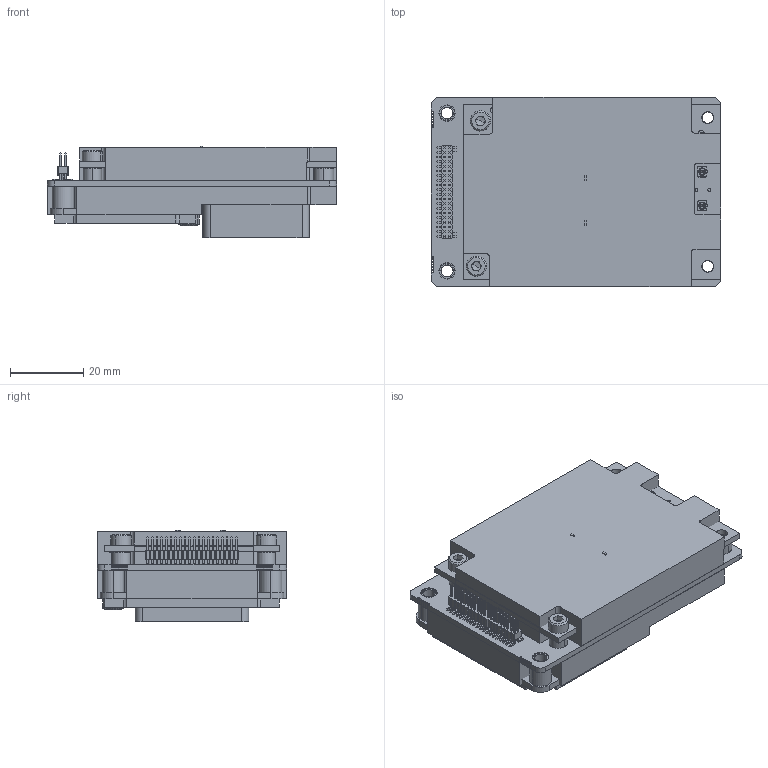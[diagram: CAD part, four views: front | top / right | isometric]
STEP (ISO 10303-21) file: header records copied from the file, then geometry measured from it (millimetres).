
FILE_DESCRIPTION (( 'STEP AP214' ), '1' );
FILE_NAME ('QUANTA-I2-CUSTOMER-OUTPUT.STEP', '2023-02-14T18:27:02', ( '' ), ( '' ), 'SwSTEP 2.0', 'SolidWorks 2022', '' );
FILE_SCHEMA (( 'AUTOMOTIVE_DESIGN' ));
Length unit declared in the file: millimetre
Products named in the file (1): QUANTA-I2-CUSTOMER-OUTPUT
Bounding box: 78.75 x 51.5 x 24.91 mm (x, y, z)
Surface area: 41208.4 mm2 (no closed solid volume)
Topology: 0 solids, 76 shells, 921 faces, 2864 edges, 1945 vertices
Faces by surface type: plane 727, cylinder 151, cone 21, torus 18, bspline 4
Entity records: 41985 total; most frequent: CARTESIAN_POINT 6786, DIRECTION 5149, ORIENTED_EDGE 4533, EDGE_CURVE 2858, LINE 2177, VECTOR 2177, VERTEX_POINT 1945, AXIS2_PLACEMENT_3D 1486
